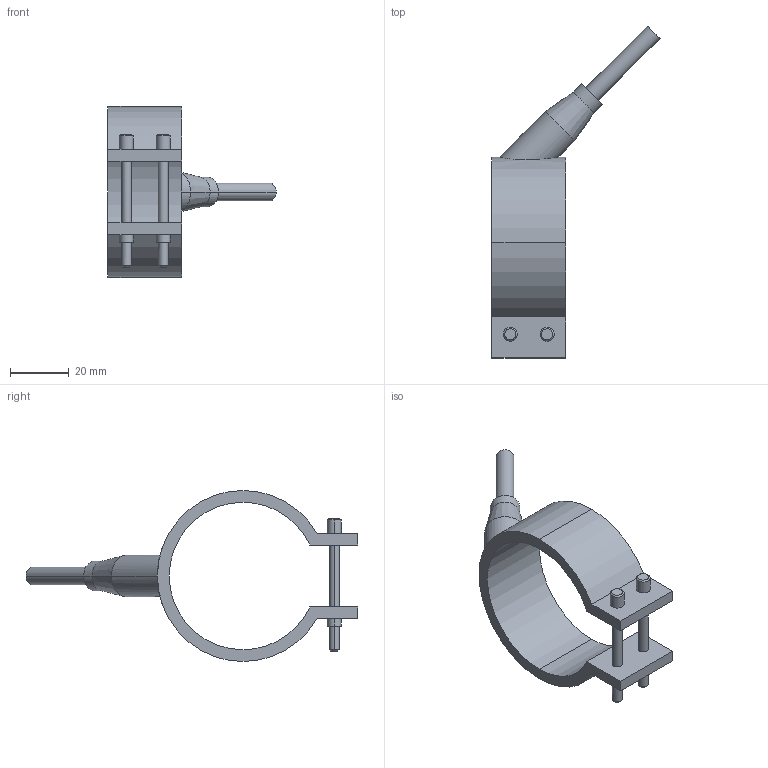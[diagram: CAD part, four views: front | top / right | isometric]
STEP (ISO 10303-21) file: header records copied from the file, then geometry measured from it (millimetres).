
FILE_DESCRIPTION(('CATIA V5 STEP Exchange'),'2;1');
FILE_NAME('C:\Users\Utente\Desktop\IO LAVORO\3D X SITO CF\X SITO\PLASTICA\RF1\29050025.stp','2021-03-27T09:32:22+00:00',('none'),('none'),'CATIA Version 5 Release 20 GA (IN-10)','CATIA V5 STEP AP203','none');
FILE_SCHEMA(('CONFIG_CONTROL_DESIGN'));
Length unit declared in the file: millimetre
Products named in the file (1): 29050025
Bounding box: 57.05 x 112.55 x 58 mm (x, y, z)
Volume: 22959.7 mm3; surface area: 12737.3 mm2
Topology: 1 solids, 1 shells, 54 faces, 124 edges, 80 vertices
Faces by surface type: cylinder 28, plane 16, cone 10
Entity records: 1714 total; most frequent: CARTESIAN_POINT 473, ORIENTED_EDGE 248, DIRECTION 215, EDGE_CURVE 124, AXIS2_PLACEMENT_3D 108, VERTEX_POINT 80, EDGE_LOOP 66, VECTOR 56
